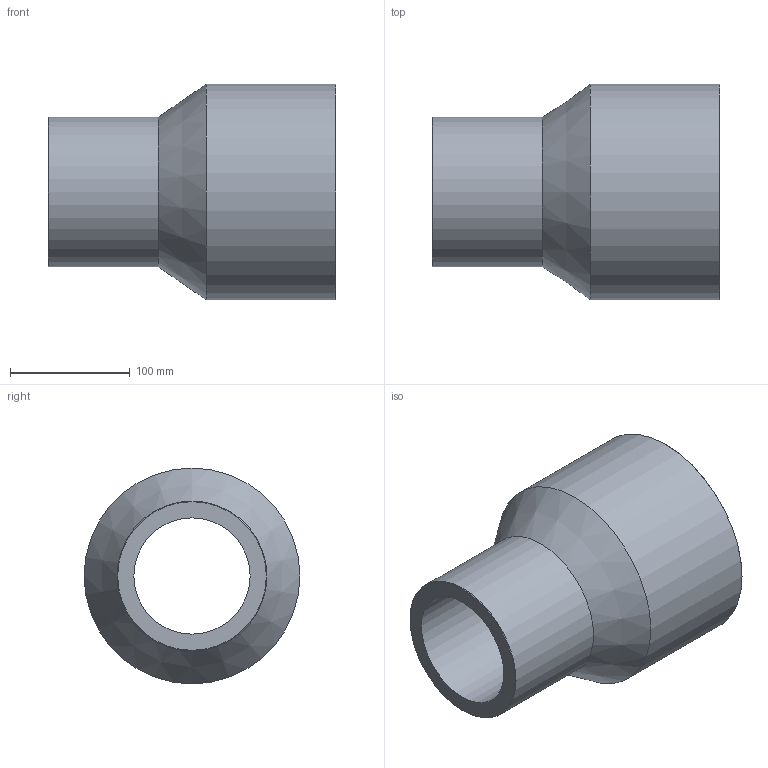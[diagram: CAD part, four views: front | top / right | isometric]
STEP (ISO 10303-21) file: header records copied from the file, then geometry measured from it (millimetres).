
FILE_DESCRIPTION(/* description */ ('Unknown'),/* implementation_level */ '2;1');
FILE_NAME(/* name */ 'RP180125G',/* time_stamp */ '2021-09-16T17:05:40+02:00',/* author */ ('Unknown'),/* organization */ ('Unknown'),/* preprocessor_version */ 'ST-DEVELOPER v16.7',/* originating_system */ 'Solid Edge',/* authorisation */ 'Unknown');
FILE_SCHEMA (('AUTOMOTIVE_DESIGN {1 0 10303 214 3 1 1}'));
Length unit declared in the file: millimetre
Products named in the file (1): RP180125G
Bounding box: 240 x 180 x 180 mm (x, y, z)
Volume: 1876863.1 mm3; surface area: 226714.5 mm2
Topology: 1 solids, 1 shells, 10 faces, 19 edges, 11 vertices
Faces by surface type: cylinder 4, cone 4, plane 2
Full cylindrical faces by diameter (mm): 97 x1, 125 x1, 139.8 x1, 180 x1
Entity records: 238 total; most frequent: DIRECTION 42, CARTESIAN_POINT 31, AXIS2_PLACEMENT_3D 21, ORIENTED_EDGE 20, EDGE_LOOP 20, FACE_BOUND 20, EDGE_CURVE 10, VERTEX_POINT 10
